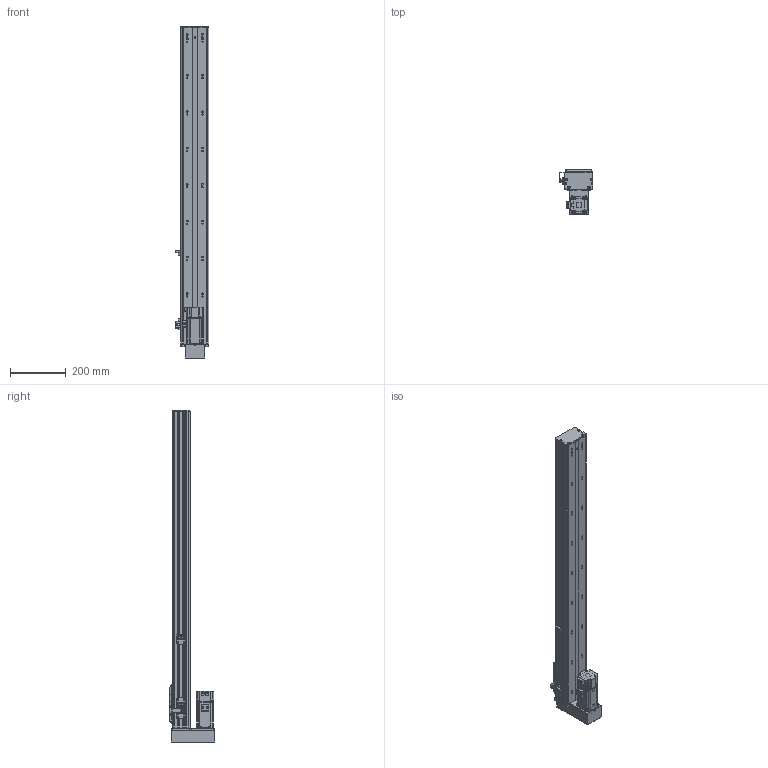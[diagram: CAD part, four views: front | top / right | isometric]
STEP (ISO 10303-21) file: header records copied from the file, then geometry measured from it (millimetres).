
FILE_DESCRIPTION (( 'STEP AP203' ), '1' );
FILE_NAME ('BOSW100-950-1610-1P-DM-M400W-O-S3（方程式2016）.step', '2020-10-10T06:49:06', ( '' ), ( '' ), 'SwSTEP 2.0', 'SolidWorks 2016', '' );
FILE_SCHEMA (( 'CONFIG_CONTROL_DESIGN' ));
Length unit declared in the file: millimetre
Products named in the file (14): 放大器内置U型微型光电传感器PM-L65; BOSW&TW-100-詩湍揤沭(陔賦凳); 新结构AIMSW-100-1P-宽&高轨共用-滑动座上组件; BOSW-100-1P-DM-宽轨-钢带-950客户图纸; BOSW-100-綴裔啣; BOS100-DM鎮湛欶; BOSW100-950-1610-1P-DM-M400W-O-S3（方程式2016）; BOSW&TW-100-俋离覜茼え; BOSW&TW-100-1P-賑雄釱欶; BOSW-100-1P-DM-宽轨-侧板-950客户图纸; BOSW-100-1P-DM-950諦誧芞; 俋境嫖覜嘐隅啣; S400W(SMA-L040); BOS-100-DM鎮湛假蚾啣
Assembly tree (19 placements, depth 2):
  BOSW100-950-1610-1P-DM-M400W-O-S3（方程式2016）
    BOSW-100-1P-DM-950諦誧芞
    BOSW-100-綴裔啣
    新结构AIMSW-100-1P-宽&高轨共用-滑动座上组件
    S400W(SMA-L040)
    BOSW&TW-100-詩湍揤沭(陔賦凳)  x2
    BOSW&TW-100-1P-賑雄釱欶
    BOSW&TW-100-俋离覜茼え
    俋境嫖覜嘐隅啣  x3
    放大器内置U型微型光电传感器PM-L65  x3
    BOSW-100-1P-DM-宽轨-侧板-950客户图纸  x2
    BOSW-100-1P-DM-宽轨-钢带-950客户图纸
    BOS100-DM鎮湛欶
    BOS-100-DM鎮湛假蚾啣
Bounding box: 120.9 x 164 x 1186 mm (x, y, z)
Volume: 2560557.4 mm3; surface area: 1181771.8 mm2
Topology: 19 solids, 19 shells, 2598 faces, 6878 edges, 4401 vertices
Faces by surface type: plane 1273, cylinder 849, bspline 271, cone 157, torus 36, sphere 12
Entity records: 71955 total; most frequent: CARTESIAN_POINT 21350, ORIENTED_EDGE 10312, DIRECTION 10012, EDGE_CURVE 5156, AXIS2_PLACEMENT_3D 3562, VERTEX_POINT 3303, VECTOR 2888, LINE 2888
